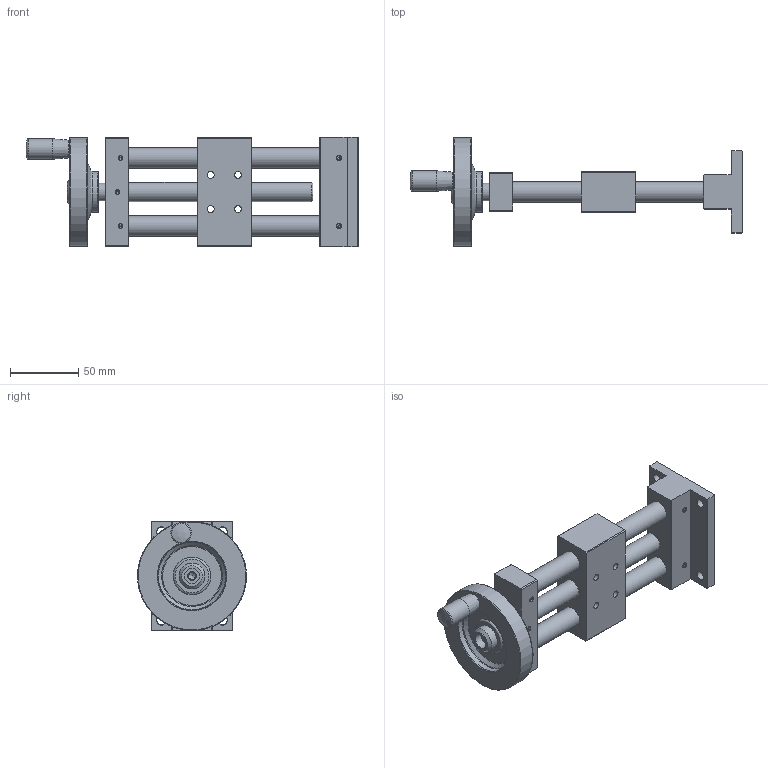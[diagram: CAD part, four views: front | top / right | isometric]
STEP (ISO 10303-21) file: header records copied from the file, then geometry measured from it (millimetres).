
FILE_DESCRIPTION (( 'STEP AP203' ), '1' );
FILE_NAME ('BHT40-50.STEP', '2024-07-30T00:05:25', ( 'Windows User' ), ( 'P R C' ), 'SwSTEP 2.0', 'SolidWorks 2024', '' );
FILE_SCHEMA (( 'CONFIG_CONTROL_DESIGN' ));
Length unit declared in the file: millimetre
Products named in the file (1): BHT40-50
Bounding box: 243.4 x 79.79 x 80 mm (x, y, z)
Volume: 320033.1 mm3; surface area: 97464.7 mm2
Topology: 26 solids, 26 shells, 412 faces, 907 edges, 567 vertices
Faces by surface type: plane 255, cylinder 81, cone 64, torus 11, sphere 1
Full cylindrical faces by diameter (mm): 3.3 x12, 4 x12, 4.917 x1, 5 x5, 6 x1, 6.6 x5, 7.5 x2, 8 x2, 10 x8, 10.1 x1, 11 x1, 13 x2, 14 x1, 15 x9, 16 x2, 17 x3, 17.1 x1, 17.8 x2, 19 x1, 30 x1, 50 x1, 80 x1
Entity records: 10887 total; most frequent: CARTESIAN_POINT 2353, DIRECTION 1802, ORIENTED_EDGE 1426, EDGE_CURVE 713, AXIS2_PLACEMENT_3D 694, EDGE_LOOP 648, VERTEX_POINT 521, FACE_OUTER_BOUND 497
